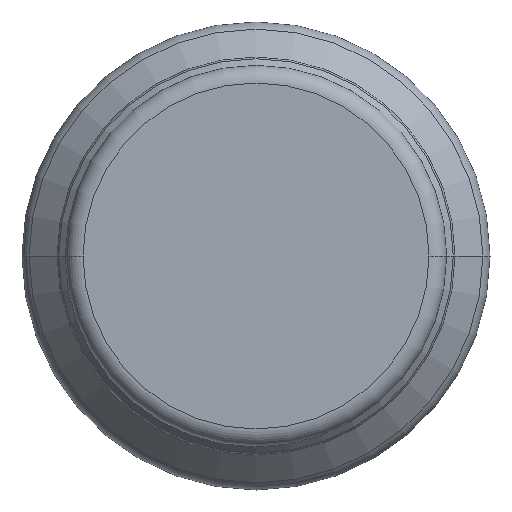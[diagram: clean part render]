
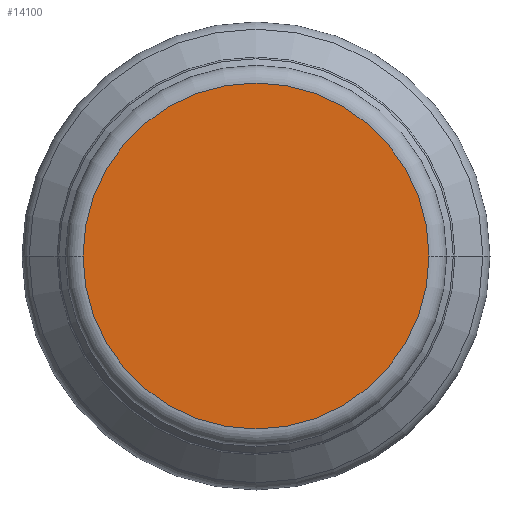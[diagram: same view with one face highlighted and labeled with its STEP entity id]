
A CAD part, left-side view. The second image highlights one B-rep face of the part: STEP entity #14100.
In plain terms, the highlighted planar face has unit normal (-1, 0, 0).
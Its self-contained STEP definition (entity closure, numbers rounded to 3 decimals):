
#13900=CARTESIAN_POINT('',(-42.,38.089,-37.672));
#13910=DIRECTION('',(-1.,0.,0.));
#13920=DIRECTION('',(0.,-1.,0.));
#13930=AXIS2_PLACEMENT_3D('',#13900,#13910,#13920);
#13940=PLANE('',#13930);
#13950=CARTESIAN_POINT('',(-42.,0.,0.));
#13960=DIRECTION('',(1.,0.,0.));
#13970=DIRECTION('',(0.,-1.,0.));
#13980=AXIS2_PLACEMENT_3D('',#13950,#13960,#13970);
#13990=CIRCLE('',#13980,49.);
#14000=CARTESIAN_POINT('',(-42.,49.,0.));
#14010=VERTEX_POINT('',#14000);
#14020=CARTESIAN_POINT('',(-42.,-49.,0.));
#14030=VERTEX_POINT('',#14020);
#14040=EDGE_CURVE('',#14010,#14030,#13990,.T.);
#14050=ORIENTED_EDGE('',*,*,#14040,.F.);
#14060=EDGE_CURVE('',#14030,#14010,#13990,.T.);
#14070=ORIENTED_EDGE('',*,*,#14060,.F.);
#14080=EDGE_LOOP('',(#14070,#14050));
#14090=FACE_OUTER_BOUND('',#14080,.T.);
#14100=ADVANCED_FACE('',(#14090),#13940,.T.);
